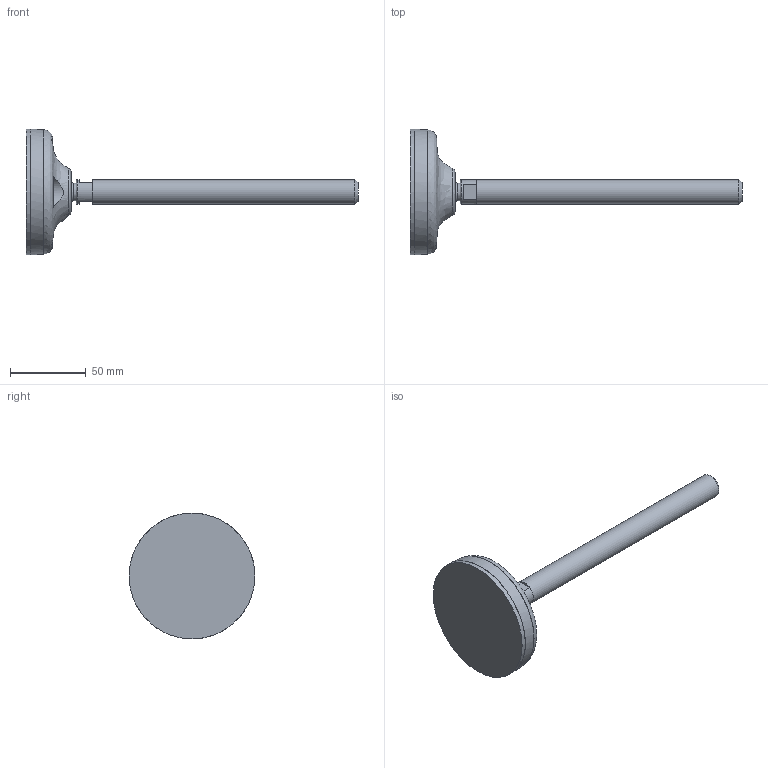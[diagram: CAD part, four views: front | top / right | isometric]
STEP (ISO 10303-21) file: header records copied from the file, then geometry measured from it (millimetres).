
FILE_DESCRIPTION(('STEP AP203'),'2;1');
FILE_NAME('10085.stp','2013-12-04T09:24:29',(''),(''),'2008.1.107','THINKDESIGN','');
FILE_SCHEMA(('CONFIG_CONTROL_DESIGN'));
Length unit declared in the file: millimetre
Bounding box: 219 x 83 x 83 mm (x, y, z)
Volume: 53355.3 mm3; surface area: 36283.5 mm2
Topology: 3 solids, 3 shells, 30 faces, 76 edges, 56 vertices
Faces by surface type: plane 17, bspline 7, cylinder 6
Full cylindrical faces by diameter (mm): 11.64 x1, 16 x2, 83 x1
Entity records: 1576 total; most frequent: CARTESIAN_POINT 833, DIRECTION 134, ORIENTED_EDGE 64, AXIS2_PLACEMENT_3D 59, COMPOSITE_CURVE_SEGMENT 44, CIRCLE 36, EDGE_CURVE 32, VERTEX_POINT 23
